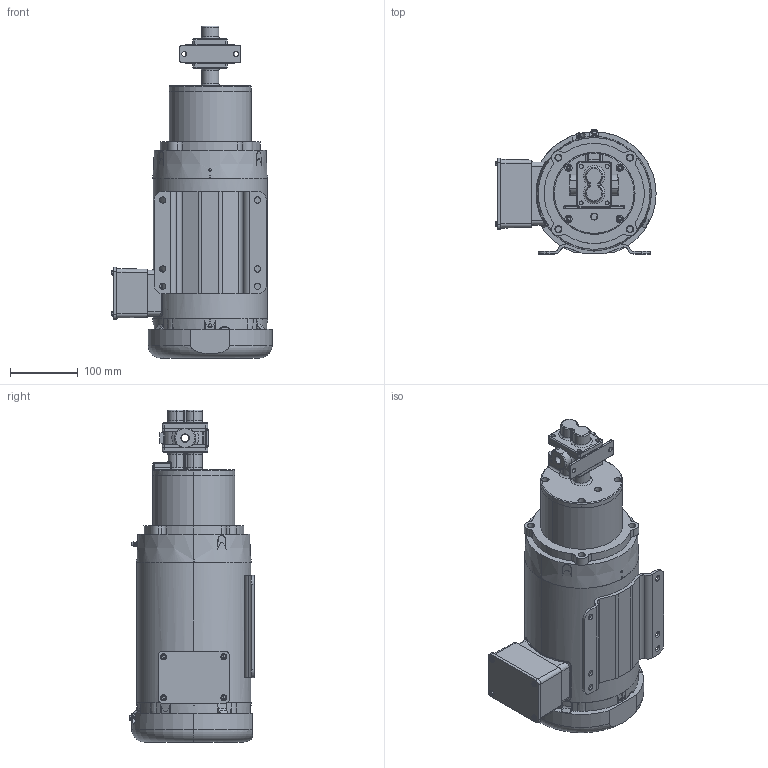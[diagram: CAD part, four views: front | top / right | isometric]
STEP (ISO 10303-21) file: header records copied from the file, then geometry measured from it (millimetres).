
FILE_DESCRIPTION (( 'STEP AP214' ), '1' );
FILE_NAME ('GMC2 FNPT 140TC MOTOR.STEP', '2025-08-28T14:37:01', ( '' ), ( '' ), 'SwSTEP 2.0', 'SolidWorks 2024', '' );
FILE_SCHEMA (( 'AUTOMOTIVE_DESIGN' ));
Length unit declared in the file: inch
Products named in the file (1): GMC2 FNPT 140TC MOTOR
Bounding box: 236.18 x 182.97 x 489.33 mm (x, y, z)
Volume: 7883884.1 mm3; surface area: 456607.9 mm2
Topology: 5 solids, 5 shells, 1850 faces, 4815 edges, 3121 vertices
Faces by surface type: cylinder 820, plane 725, cone 117, torus 81, bspline 61, sphere 46
Entity records: 61771 total; most frequent: CARTESIAN_POINT 15617, DIRECTION 9879, ORIENTED_EDGE 9594, EDGE_CURVE 4797, AXIS2_PLACEMENT_3D 3780, VERTEX_POINT 3119, LINE 2319, VECTOR 2319
